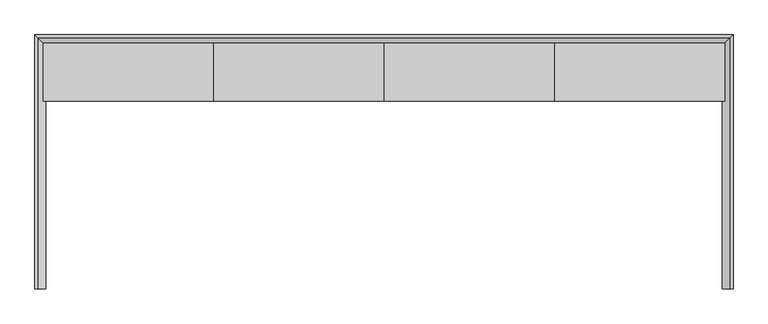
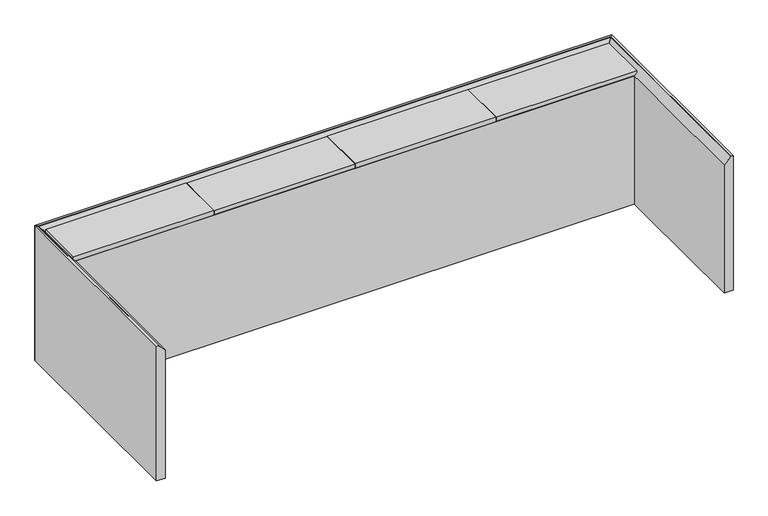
"""IFC4 building model written with IfcOpenShell, lengths in millimetres: proxy geometry, AERO^STANDARD_CONSOLE CREDENZA 35H-SOLID ASSEMBLY."""

from ifc_helpers import new_model, si_unit, frame, origin, origin_with_axes, place, context, project, spatial, polyline, outline, extrude, faceted_brep, source, transform, mapped, element, save


def generic_models_10aa70d1(model_context):
    return source(origin(), model_context, "Body", "SolidModel", [
        extrude(outline(polyline([(38.1, 0.0), (38.1, 19.05), (2400.3, 19.05), (2400.3, 0.0), (38.1, 0.0)])), origin_with_axes(), (0.0, 0.0, 1.0), 571.5),
        extrude(outline(polyline([(1816.2984375, 203.2), (2409.825, 203.2), (2409.825, 0.0), (1816.2984375, 0.0), (1816.2984375, 203.2)])), frame((0.0, 0.0, 574.675), z_axis=(0.0, 0.0, 1.0), x_axis=(1.0, 0.0, 0.0)), (0.0, 0.0, 1.0), 19.05),
        faceted_brep([(2428.875, 222.25, 603.25), (2428.875, 222.25, 601.6625), (2428.875, -657.225, 601.6625), (2428.875, -657.225, 603.25), (2400.3, 193.675, 573.0875), (2400.3, -657.225, 573.0875), (2400.3, 193.675, 0.0), (2400.3, -657.225, 0.0), (2438.4, 231.775, 603.25), (2438.4, 231.775, 0.0), (2438.4, -657.225, 0.0), (2438.4, -657.225, 603.25)], [[[0, 1, 2, 3]], [[1, 4, 5, 2]], [[5, 4, 6, 7]], [[4, 1, 0, 8, 9, 6]], [[2, 5, 7, 10, 11, 3]], [[10, 9, 8, 11]], [[0, 3, 11, 8]], [[7, 6, 9, 10]]]),
        extrude(outline(polyline([(38.1, 193.675), (2400.3, 193.675), (2400.3, 19.05), (38.1, 19.05), (38.1, 193.675)])), origin_with_axes(), (0.0, 0.0, 1.0), 19.05),
        extrude(outline(polyline([(28.575, 0.0), (28.575, 203.2), (622.1015625, 203.2), (622.1015625, 0.0), (28.575, 0.0)])), frame((0.0, 0.0, 574.675), z_axis=(0.0, 0.0, 1.0), x_axis=(1.0, 0.0, 0.0)), (0.0, 0.0, 1.0), 19.05),
        extrude(outline(polyline([(1813.9171875, 203.2), (1813.9171875, 0.0), (1220.390625, 0.0), (1220.390625, 203.2), (1813.9171875, 203.2)])), frame((0.0, 0.0, 574.675), z_axis=(0.0, 0.0, 1.0), x_axis=(1.0, 0.0, 0.0)), (0.0, 0.0, 1.0), 19.05),
        faceted_brep([(9.525, 222.25, 603.25), (9.525, 222.25, 601.6625), (2428.875, 222.25, 601.6625), (2428.875, 222.25, 603.25), (38.1, 193.675, 573.0875), (2400.3, 193.675, 573.0875), (38.1, 193.675, 0.0), (2400.3, 193.675, 0.0), (0.0, 231.775, 603.25), (0.0, 231.775, 0.0), (2438.4, 231.775, 0.0), (2438.4, 231.775, 603.25)], [[[0, 1, 2, 3]], [[1, 4, 5, 2]], [[5, 4, 6, 7]], [[4, 1, 0, 8, 9, 6]], [[10, 9, 8, 11]], [[2, 5, 7, 10, 11, 3]], [[0, 3, 11, 8]], [[7, 6, 9, 10]]]),
        extrude(outline(polyline([(1806.575, 193.675), (1825.625, 193.675), (1825.625, 19.05), (1806.575, 19.05), (1806.575, 193.675)])), frame((0.0, 0.0, 19.05), z_axis=(0.0, 0.0, 1.0), x_axis=(1.0, 0.0, 0.0)), (0.0, 0.0, 1.0), 560.3875),
        extrude(outline(polyline([(1218.009375, 203.2), (1218.009375, 0.0), (624.4828125, 0.0), (624.4828125, 203.2), (1218.009375, 203.2)])), frame((0.0, 0.0, 574.675), z_axis=(0.0, 0.0, 1.0), x_axis=(1.0, 0.0, 0.0)), (0.0, 0.0, 1.0), 19.05),
        extrude(outline(polyline([(631.825, 19.05), (612.775, 19.05), (612.775, 193.675), (631.825, 193.675), (631.825, 19.05)])), frame((0.0, 0.0, 19.05), z_axis=(0.0, 0.0, 1.0), x_axis=(1.0, 0.0, 0.0)), (0.0, 0.0, 1.0), 560.3875),
        extrude(outline(polyline([(1228.725, 19.05), (1209.675, 19.05), (1209.675, 193.675), (1228.725, 193.675), (1228.725, 19.05)])), frame((0.0, 0.0, 19.05), z_axis=(0.0, 0.0, 1.0), x_axis=(1.0, 0.0, 0.0)), (0.0, 0.0, 1.0), 560.3875),
        faceted_brep([(9.525, -657.225, 603.25), (9.525, -657.225, 601.6625), (9.525, 222.25, 601.6625), (9.525, 222.25, 603.25), (38.1, -657.225, 573.0875), (38.1, 193.675, 573.0875), (38.1, -657.225, 0.0), (38.1, 193.675, 0.0), (0.0, -657.225, 603.25), (0.0, -657.225, 0.0), (0.0, 231.775, 0.0), (0.0, 231.775, 603.25)], [[[0, 1, 2, 3]], [[1, 4, 5, 2]], [[5, 4, 6, 7]], [[4, 1, 0, 8, 9, 6]], [[10, 9, 8, 11]], [[2, 5, 7, 10, 11, 3]], [[0, 3, 11, 8]], [[9, 10, 7, 6]]]),
    ])


if __name__ == "__main__":
    model = new_model("IFC4")
    model_context = context("Model", 3, world=origin())
    ifc_project = project(units=[si_unit("LENGTHUNIT", "METRE", prefix="MILLI")], contexts=[model_context])
    site = spatial("IfcSite", under=ifc_project)
    building = spatial("IfcBuilding", under=site)
    placement = place(None, origin())
    generic_models_shape = generic_models_10aa70d1(model_context)
    element("IfcBuildingElementProxy", 1, Name="AERO^STANDARD_CONSOLE CREDENZA 35H-SOLID ASSEMBLY", ObjectType="AERO^STANDARD_CONSOLE CREDENZA 35H-SOLID ASSEMBLY", at=placement, inside=building, context=model_context, shape_type="MappedRepresentation", body=[
        mapped(generic_models_shape, transform((0.0, 0.0, 0.0), x_axis=(1.0, 0.0, 0.0), y_axis=(0.0, 1.0, 0.0), z_axis=(0.0, 0.0, 1.0))),
    ])
    save(model, "model.ifc")
